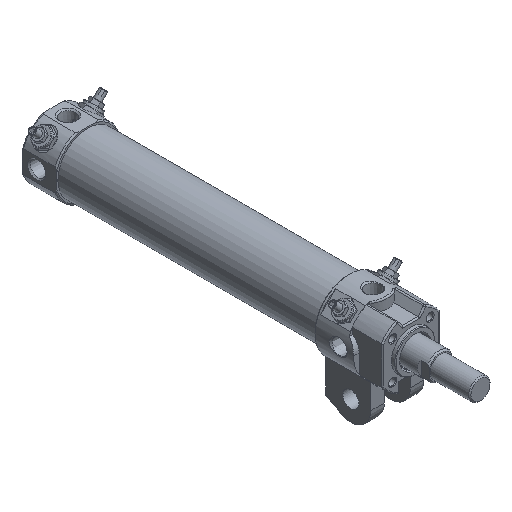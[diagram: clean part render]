
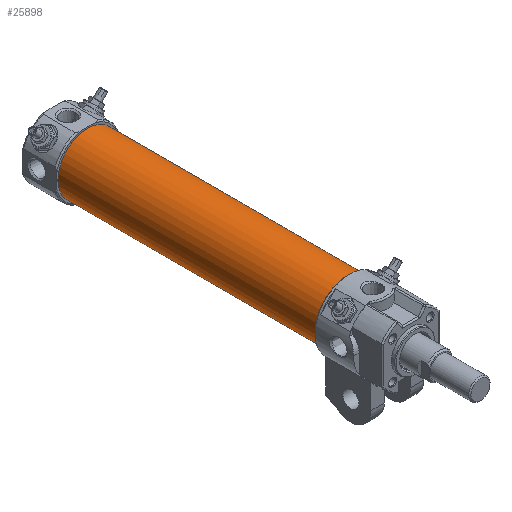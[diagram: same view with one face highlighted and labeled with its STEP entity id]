
A CAD part, isometric view. The second image highlights one B-rep face of the part: STEP entity #25898.
In plain terms, the highlighted cylindrical face has radius 22.5 mm (diameter 45 mm), a full revolution.
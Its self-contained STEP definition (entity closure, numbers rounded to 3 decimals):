
#20824=CARTESIAN_POINT('',(22.5,246.5,0.));
#20825=VERTEX_POINT('',#20824);
#20826=CARTESIAN_POINT('',(0.0,246.5,0.0));
#20827=DIRECTION('',(0.0,-1.0,0.0));
#20828=DIRECTION('',(-1.0,0.0,0.0));
#20829=AXIS2_PLACEMENT_3D('',#20826,#20827,#20828);
#20830=CIRCLE('',#20829,22.5);
#20831=EDGE_CURVE('',#20825,#20825,#20830,.T.);
#25875=CARTESIAN_POINT('',(22.5,50.5,0.));
#25876=VERTEX_POINT('',#25875);
#25877=CARTESIAN_POINT('',(0.0,50.5,0.0));
#25878=DIRECTION('',(0.0,-1.0,0.0));
#25879=DIRECTION('',(-1.0,0.0,0.0));
#25880=AXIS2_PLACEMENT_3D('',#25877,#25878,#25879);
#25881=CIRCLE('',#25880,22.5);
#25882=EDGE_CURVE('',#25876,#25876,#25881,.T.);
#25887=CARTESIAN_POINT('',(0.0,50.5,0.0));
#25888=DIRECTION('',(0.0,1.0,0.0));
#25889=DIRECTION('',(-1.0,0.0,0.0));
#25890=AXIS2_PLACEMENT_3D('',#25887,#25888,#25889);
#25891=CYLINDRICAL_SURFACE('',#25890,22.5);
#25892=ORIENTED_EDGE('',*,*,#20831,.T.);
#25893=EDGE_LOOP('',(#25892));
#25894=FACE_OUTER_BOUND('',#25893,.T.);
#25895=ORIENTED_EDGE('',*,*,#25882,.F.);
#25896=EDGE_LOOP('',(#25895));
#25897=FACE_BOUND('',#25896,.T.);
#25898=ADVANCED_FACE('',(#25894,#25897),#25891,.T.);
